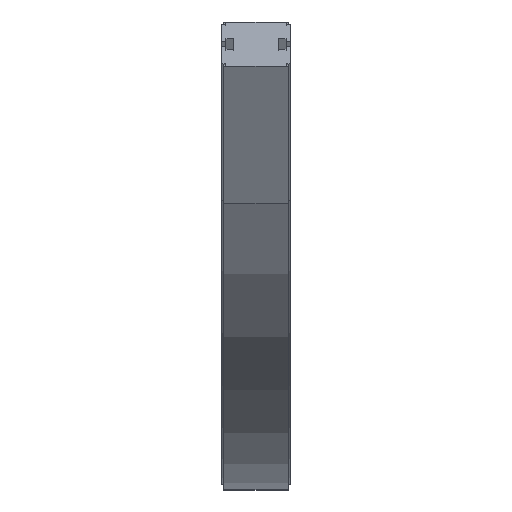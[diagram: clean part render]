
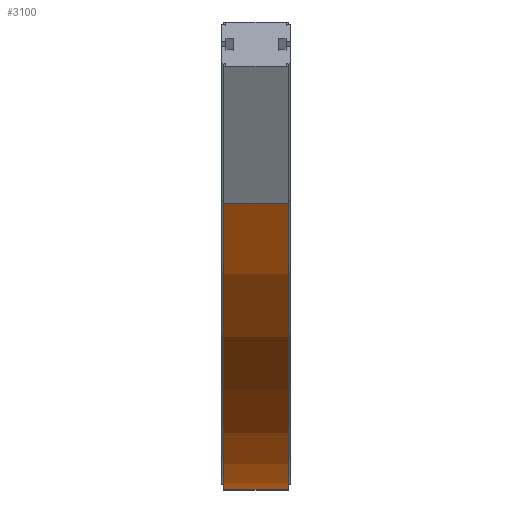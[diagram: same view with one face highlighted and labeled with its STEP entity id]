
A CAD part, top view. The second image highlights one B-rep face of the part: STEP entity #3100.
In plain terms, the highlighted cylindrical face has radius 542 mm (diameter 1084 mm), a partial arc.
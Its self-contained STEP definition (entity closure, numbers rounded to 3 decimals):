
#17 = CARTESIAN_POINT ( 'NONE',  ( -30.65, -42., 150. ) ) ;
#49 = DIRECTION ( 'NONE',  ( 0., 0., 1. ) ) ;
#70 = ORIENTED_EDGE ( 'NONE', *, *, #2932, .T. ) ;
#149 = ORIENTED_EDGE ( 'NONE', *, *, #2003, .F. ) ;
#436 = DIRECTION ( 'NONE',  ( -1., 0., 0. ) ) ;
#438 = LINE ( 'NONE', #1340, #1120 ) ;
#512 = VECTOR ( 'NONE', #1380, 1000. ) ;
#849 = VERTEX_POINT ( 'NONE', #2062 ) ;
#962 = EDGE_CURVE ( 'NONE', #2828, #849, #2903, .T. ) ;
#1025 = FACE_OUTER_BOUND ( 'NONE', #1673, .T. ) ;
#1120 = VECTOR ( 'NONE', #2537, 1000. ) ;
#1161 = CARTESIAN_POINT ( 'NONE',  ( -30.65, 500., 150. ) ) ;
#1265 = DIRECTION ( 'NONE',  ( -1., 0., 0. ) ) ;
#1303 = DIRECTION ( 'NONE',  ( -1., 0., 0. ) ) ;
#1340 = CARTESIAN_POINT ( 'NONE',  ( -30.65, -42., 150. ) ) ;
#1380 = DIRECTION ( 'NONE',  ( -1., 0., 0. ) ) ;
#1425 = DIRECTION ( 'NONE',  ( 0., 0., 1. ) ) ;
#1483 = VERTEX_POINT ( 'NONE', #2395 ) ;
#1507 = CARTESIAN_POINT ( 'NONE',  ( 0., 500., 150. ) ) ;
#1586 = ORIENTED_EDGE ( 'NONE', *, *, #962, .F. ) ;
#1648 = EDGE_CURVE ( 'NONE', #1813, #849, #2098, .T. ) ;
#1673 = EDGE_LOOP ( 'NONE', ( #149, #70, #2271, #1586 ) ) ;
#1813 = VERTEX_POINT ( 'NONE', #2634 ) ;
#2003 = EDGE_CURVE ( 'NONE', #1483, #2828, #438, .T. ) ;
#2062 = CARTESIAN_POINT ( 'NONE',  ( -30.65, 229., 619.386 ) ) ;
#2098 = LINE ( 'NONE', #2322, #512 ) ;
#2145 = AXIS2_PLACEMENT_3D ( 'NONE', #2702, #1265, #49 ) ;
#2181 = AXIS2_PLACEMENT_3D ( 'NONE', #1161, #436, #1425 ) ;
#2271 = ORIENTED_EDGE ( 'NONE', *, *, #1648, .T. ) ;
#2322 = CARTESIAN_POINT ( 'NONE',  ( -30.65, 229., 619.386 ) ) ;
#2395 = CARTESIAN_POINT ( 'NONE',  ( 30.65, -42., 150. ) ) ;
#2488 = DIRECTION ( 'NONE',  ( 0., 0., 1. ) ) ;
#2502 = CYLINDRICAL_SURFACE ( 'NONE', #2838, 542. ) ;
#2537 = DIRECTION ( 'NONE',  ( -1., 0., 0. ) ) ;
#2634 = CARTESIAN_POINT ( 'NONE',  ( 30.65, 229., 619.386 ) ) ;
#2702 = CARTESIAN_POINT ( 'NONE',  ( 30.65, 500., 150. ) ) ;
#2828 = VERTEX_POINT ( 'NONE', #17 ) ;
#2838 = AXIS2_PLACEMENT_3D ( 'NONE', #1507, #1303, #2488 ) ;
#2903 = CIRCLE ( 'NONE', #2181, 542. ) ;
#2932 = EDGE_CURVE ( 'NONE', #1483, #1813, #3027, .T. ) ;
#3027 = CIRCLE ( 'NONE', #2145, 542. ) ;
#3100 = ADVANCED_FACE ( 'NONE', ( #1025 ), #2502, .T. ) ;
